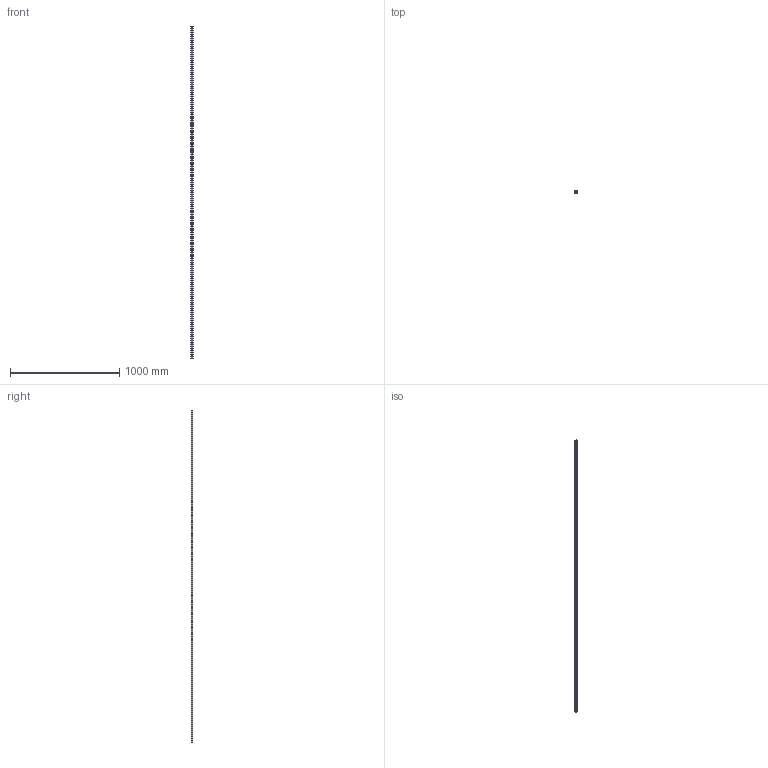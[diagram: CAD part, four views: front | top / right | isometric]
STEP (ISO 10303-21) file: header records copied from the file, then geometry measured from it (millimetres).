
FILE_DESCRIPTION (( 'STEP AP203' ), '1' );
FILE_NAME ('L1016.BL20-3040.step', '2019-06-12T11:55:26', ( '' ), ( '' ), 'SwSTEP 2.0', 'SolidWorks 2017', '' );
FILE_SCHEMA (( 'CONFIG_CONTROL_DESIGN' ));
Length unit declared in the file: millimetre
Products named in the file (1): L1016.BL20-3040
Bounding box: 20 x 16.3 x 3040 mm (x, y, z)
Volume: 845044.2 mm3; surface area: 244502.2 mm2
Topology: 1 solids, 1 shells, 281 faces, 684 edges, 456 vertices
Faces by surface type: cylinder 208, plane 73
Entity records: 8755 total; most frequent: DIRECTION 1664, CARTESIAN_POINT 1422, ORIENTED_EDGE 1368, AXIS2_PLACEMENT_3D 698, EDGE_CURVE 684, VERTEX_POINT 456, EDGE_LOOP 434, CIRCLE 416
